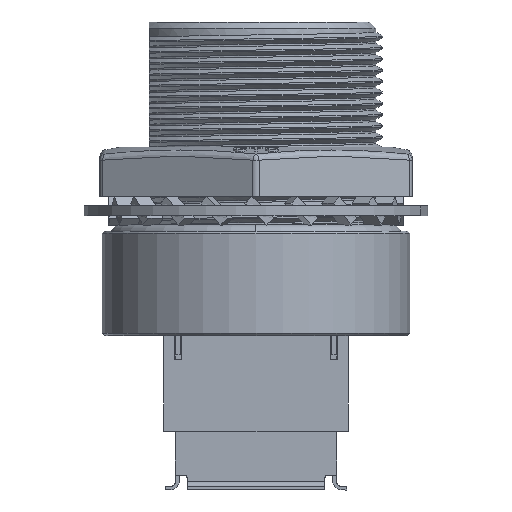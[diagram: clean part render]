
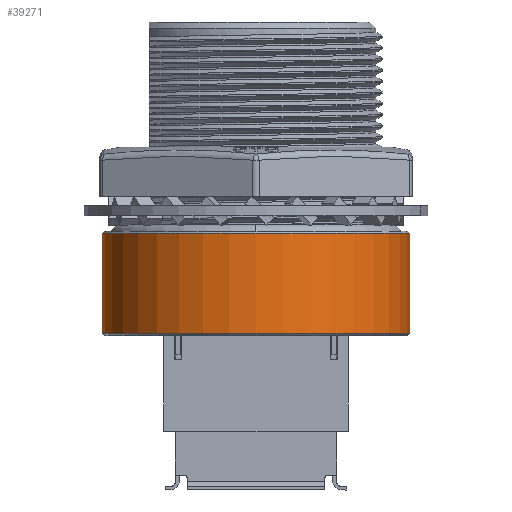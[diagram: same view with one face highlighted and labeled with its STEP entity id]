
A CAD part, front view. The second image highlights one B-rep face of the part: STEP entity #39271.
In plain terms, the highlighted cylindrical face has radius 12.5 mm (diameter 25 mm), a partial arc.
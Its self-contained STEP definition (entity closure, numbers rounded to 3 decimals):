
#617 = CYLINDRICAL_SURFACE ( 'NONE', #11998, 12.5 ) ;
#983 = CIRCLE ( 'NONE', #52117, 12.5 ) ;
#1436 = CARTESIAN_POINT ( 'NONE',  ( 12.5, 0., -25.3 ) ) ;
#2371 = DIRECTION ( 'NONE',  ( 1., 0., 0. ) ) ;
#2541 = ORIENTED_EDGE ( 'NONE', *, *, #7248, .T. ) ;
#3802 = CARTESIAN_POINT ( 'NONE',  ( -12.5, 0., -17.2 ) ) ;
#4868 = EDGE_CURVE ( 'NONE', #16415, #39057, #55595, .T. ) ;
#6695 = CARTESIAN_POINT ( 'NONE',  ( 12.5, 0., -17.2 ) ) ;
#7100 = DIRECTION ( 'NONE',  ( 0., 0., 1. ) ) ;
#7248 = EDGE_CURVE ( 'NONE', #39057, #28873, #61008, .T. ) ;
#7830 = EDGE_CURVE ( 'NONE', #16415, #41997, #43423, .T. ) ;
#9037 = EDGE_LOOP ( 'NONE', ( #41702, #60025, #2541, #28960 ) ) ;
#9439 = CARTESIAN_POINT ( 'NONE',  ( -12.5, 0., -25.3 ) ) ;
#11998 = AXIS2_PLACEMENT_3D ( 'NONE', #48387, #19838, #38946 ) ;
#13605 = CARTESIAN_POINT ( 'NONE',  ( 12.5, 0., 21.839 ) ) ;
#16415 = VERTEX_POINT ( 'NONE', #9439 ) ;
#17820 = VECTOR ( 'NONE', #36817, 1000. ) ;
#19776 = DIRECTION ( 'NONE',  ( -1., 0., 0. ) ) ;
#19838 = DIRECTION ( 'NONE',  ( 0., 0., 1. ) ) ;
#24168 = DIRECTION ( 'NONE',  ( 0., 0., -1. ) ) ;
#26875 = VECTOR ( 'NONE', #29895, 1000. ) ;
#28873 = VERTEX_POINT ( 'NONE', #6695 ) ;
#28933 = FACE_OUTER_BOUND ( 'NONE', #9037, .T. ) ;
#28960 = ORIENTED_EDGE ( 'NONE', *, *, #38191, .T. ) ;
#29895 = DIRECTION ( 'NONE',  ( 0., 0., 1. ) ) ;
#36817 = DIRECTION ( 'NONE',  ( 0., 0., 1. ) ) ;
#38191 = EDGE_CURVE ( 'NONE', #28873, #41997, #983, .T. ) ;
#38946 = DIRECTION ( 'NONE',  ( 1., 0., 0. ) ) ;
#39057 = VERTEX_POINT ( 'NONE', #1436 ) ;
#39271 = ADVANCED_FACE ( 'NONE', ( #28933 ), #617, .T. ) ;
#39308 = CARTESIAN_POINT ( 'NONE',  ( -12.5, 0., 21.839 ) ) ;
#41702 = ORIENTED_EDGE ( 'NONE', *, *, #7830, .F. ) ;
#41997 = VERTEX_POINT ( 'NONE', #3802 ) ;
#42996 = CARTESIAN_POINT ( 'NONE',  ( 0., 0., -17.2 ) ) ;
#43423 = LINE ( 'NONE', #39308, #26875 ) ;
#48387 = CARTESIAN_POINT ( 'NONE',  ( 0., 0., 21.839 ) ) ;
#52117 = AXIS2_PLACEMENT_3D ( 'NONE', #42996, #24168, #19776 ) ;
#54547 = CARTESIAN_POINT ( 'NONE',  ( 0., 0., -25.3 ) ) ;
#54622 = AXIS2_PLACEMENT_3D ( 'NONE', #54547, #7100, #2371 ) ;
#55595 = CIRCLE ( 'NONE', #54622, 12.5 ) ;
#60025 = ORIENTED_EDGE ( 'NONE', *, *, #4868, .T. ) ;
#61008 = LINE ( 'NONE', #13605, #17820 ) ;
